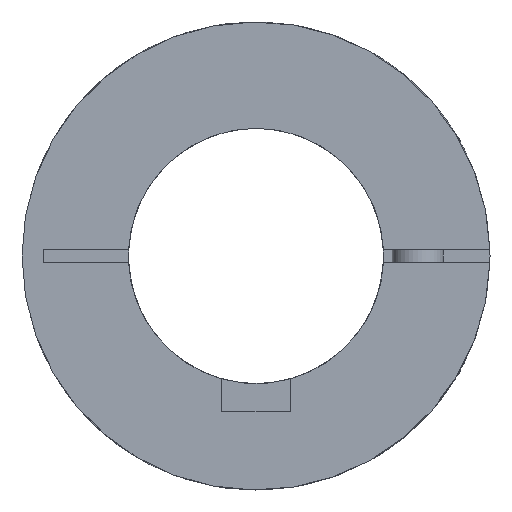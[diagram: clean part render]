
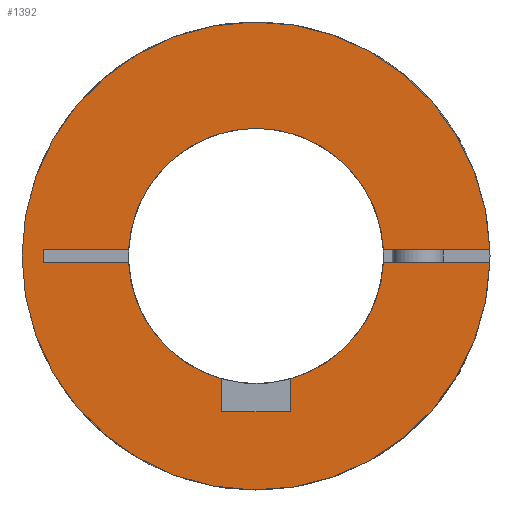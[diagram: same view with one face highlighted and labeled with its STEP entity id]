
A CAD part, left-side view. The second image highlights one B-rep face of the part: STEP entity #1392.
In plain terms, the highlighted planar face has unit normal (-1, 0, 0).
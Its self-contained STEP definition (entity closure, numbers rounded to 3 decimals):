
#41=PLANE('',#1577);
#130=LINE('',#2444,#237);
#133=LINE('',#2450,#240);
#134=LINE('',#2452,#241);
#146=LINE('',#2474,#253);
#150=LINE('',#2480,#257);
#161=LINE('',#2501,#268);
#162=LINE('',#2504,#269);
#167=LINE('',#2520,#274);
#237=VECTOR('',#1862,1.);
#240=VECTOR('',#1867,1.);
#241=VECTOR('',#1870,1.);
#253=VECTOR('',#1890,20.057);
#257=VECTOR('',#1898,22.546);
#268=VECTOR('',#1919,22.546);
#269=VECTOR('',#1922,20.057);
#274=VECTOR('',#1949,1.5);
#380=FACE_OUTER_BOUND('',#476,.T.);
#476=EDGE_LOOP('',(#1197,#1198,#1199,#1200,#1201,#1202,#1203,#1204,#1205,
#1206,#1207,#1208));
#582=CIRCLE('',#1532,27.5);
#592=CIRCLE('',#1545,15.);
#594=CIRCLE('',#1547,15.);
#595=CIRCLE('',#1549,15.);
#666=VERTEX_POINT('',#2376);
#667=VERTEX_POINT('',#2378);
#685=VERTEX_POINT('',#2417);
#686=VERTEX_POINT('',#2419);
#689=VERTEX_POINT('',#2425);
#690=VERTEX_POINT('',#2427);
#691=VERTEX_POINT('',#2431);
#692=VERTEX_POINT('',#2432);
#696=VERTEX_POINT('',#2442);
#698=VERTEX_POINT('',#2448);
#704=VERTEX_POINT('',#2472);
#710=VERTEX_POINT('',#2503);
#826=EDGE_CURVE('',#667,#666,#582,.T.);
#845=EDGE_CURVE('',#686,#685,#592,.T.);
#849=EDGE_CURVE('',#690,#689,#594,.T.);
#851=EDGE_CURVE('',#691,#692,#595,.T.);
#857=EDGE_CURVE('',#689,#696,#130,.T.);
#860=EDGE_CURVE('',#696,#698,#133,.T.);
#861=EDGE_CURVE('',#698,#686,#134,.T.);
#873=EDGE_CURVE('',#704,#685,#146,.T.);
#877=EDGE_CURVE('',#692,#667,#150,.T.);
#888=EDGE_CURVE('',#666,#690,#161,.T.);
#889=EDGE_CURVE('',#710,#691,#162,.T.);
#894=EDGE_CURVE('',#710,#704,#167,.T.);
#1197=ORIENTED_EDGE('',*,*,#845,.T.);
#1198=ORIENTED_EDGE('',*,*,#873,.F.);
#1199=ORIENTED_EDGE('',*,*,#894,.F.);
#1200=ORIENTED_EDGE('',*,*,#889,.T.);
#1201=ORIENTED_EDGE('',*,*,#851,.T.);
#1202=ORIENTED_EDGE('',*,*,#877,.T.);
#1203=ORIENTED_EDGE('',*,*,#826,.T.);
#1204=ORIENTED_EDGE('',*,*,#888,.T.);
#1205=ORIENTED_EDGE('',*,*,#849,.T.);
#1206=ORIENTED_EDGE('',*,*,#857,.T.);
#1207=ORIENTED_EDGE('',*,*,#860,.T.);
#1208=ORIENTED_EDGE('',*,*,#861,.T.);
#1392=ADVANCED_FACE('',(#380),#41,.T.);
#1532=AXIS2_PLACEMENT_3D('',#2379,#1806,#1807);
#1545=AXIS2_PLACEMENT_3D('',#2420,#1841,#1842);
#1547=AXIS2_PLACEMENT_3D('',#2428,#1847,#1848);
#1549=AXIS2_PLACEMENT_3D('',#2433,#1852,#1853);
#1577=AXIS2_PLACEMENT_3D('',#2521,#1950,#1951);
#1806=DIRECTION('center_axis',(-1.,0.,0.));
#1807=DIRECTION('ref_axis',(0.,1.,0.));
#1841=DIRECTION('center_axis',(1.,0.,0.));
#1842=DIRECTION('ref_axis',(0.,0.,-1.));
#1847=DIRECTION('center_axis',(1.,0.,0.));
#1848=DIRECTION('ref_axis',(0.,0.,-1.));
#1852=DIRECTION('center_axis',(1.,0.,0.));
#1853=DIRECTION('ref_axis',(0.,0.,-1.));
#1862=DIRECTION('',(0.,0.,-1.));
#1867=DIRECTION('',(0.,1.,0.));
#1870=DIRECTION('',(0.,0.,1.));
#1890=DIRECTION('',(0.,-1.,0.));
#1898=DIRECTION('',(0.,-1.,0.));
#1919=DIRECTION('',(0.,1.,0.));
#1922=DIRECTION('',(0.,-1.,0.));
#1949=DIRECTION('',(0.,0.,-1.));
#1950=DIRECTION('center_axis',(-1.,0.,0.));
#1951=DIRECTION('ref_axis',(0.,-1.,0.));
#2376=CARTESIAN_POINT('',(0.,-27.49,-0.75));
#2378=CARTESIAN_POINT('',(0.,-27.49,0.75));
#2379=CARTESIAN_POINT('Origin',(0.,0.,0.));
#2417=CARTESIAN_POINT('',(0.,14.981,-0.75));
#2419=CARTESIAN_POINT('',(0.,4.,-14.457));
#2420=CARTESIAN_POINT('Origin',(0.,0.,0.));
#2425=CARTESIAN_POINT('',(0.,-4.,-14.457));
#2427=CARTESIAN_POINT('',(0.,-14.981,-0.75));
#2428=CARTESIAN_POINT('Origin',(0.,0.,0.));
#2431=CARTESIAN_POINT('',(0.,14.981,0.75));
#2432=CARTESIAN_POINT('',(0.,-14.981,0.75));
#2433=CARTESIAN_POINT('Origin',(0.,0.,0.));
#2442=CARTESIAN_POINT('',(0.,-4.,-18.3));
#2444=CARTESIAN_POINT('',(0.,-4.,-7.075));
#2448=CARTESIAN_POINT('',(0.,4.,-18.3));
#2450=CARTESIAN_POINT('',(0.,0.,-18.3));
#2452=CARTESIAN_POINT('',(0.,4.,-7.075));
#2472=CARTESIAN_POINT('',(0.,25.,-0.75));
#2474=CARTESIAN_POINT('',(0.,25.,-0.75));
#2480=CARTESIAN_POINT('',(0.,-4.943,0.75));
#2501=CARTESIAN_POINT('',(0.,-27.49,-0.75));
#2503=CARTESIAN_POINT('',(0.,25.,0.75));
#2504=CARTESIAN_POINT('',(0.,25.,0.75));
#2520=CARTESIAN_POINT('',(0.,25.,0.75));
#2521=CARTESIAN_POINT('Origin',(0.,0.,-5.));
